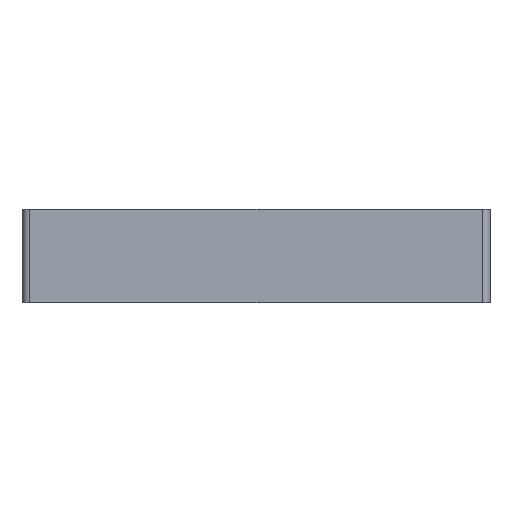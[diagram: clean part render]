
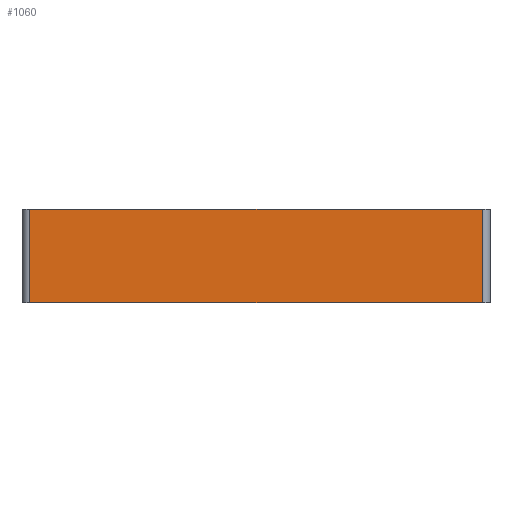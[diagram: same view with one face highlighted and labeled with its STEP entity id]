
A CAD part, front view. The second image highlights one B-rep face of the part: STEP entity #1060.
In plain terms, the highlighted planar face has unit normal (0, -1, 0).
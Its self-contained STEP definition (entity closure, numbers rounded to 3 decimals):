
#17 = CARTESIAN_POINT ( 'NONE',  ( -29., -30., 12. ) ) ;
#24 = CARTESIAN_POINT ( 'NONE',  ( -29., -30., 0. ) ) ;
#68 = CARTESIAN_POINT ( 'NONE',  ( 29., -30., 12. ) ) ;
#75 = DIRECTION ( 'NONE',  ( 0., 0., -1. ) ) ;
#121 = ORIENTED_EDGE ( 'NONE', *, *, #485, .T. ) ;
#150 = ORIENTED_EDGE ( 'NONE', *, *, #469, .F. ) ;
#177 = ORIENTED_EDGE ( 'NONE', *, *, #476, .T. ) ;
#193 = ORIENTED_EDGE ( 'NONE', *, *, #482, .F. ) ;
#279 = VECTOR ( 'NONE', #568, 1000. ) ;
#281 = LINE ( 'NONE', #567, #279 ) ;
#283 = LINE ( 'NONE', #551, #289 ) ;
#288 = LINE ( 'NONE', #538, #295 ) ;
#289 = VECTOR ( 'NONE', #536, 1000. ) ;
#295 = VECTOR ( 'NONE', #574, 1000. ) ;
#300 = LINE ( 'NONE', #68, #306 ) ;
#306 = VECTOR ( 'NONE', #75, 1000. ) ;
#414 = AXIS2_PLACEMENT_3D ( 'NONE', #813, #771, #825 ) ;
#469 = EDGE_CURVE ( 'NONE', #710, #719, #300, .T. ) ;
#476 = EDGE_CURVE ( 'NONE', #652, #639, #281, .T. ) ;
#482 = EDGE_CURVE ( 'NONE', #652, #710, #283, .T. ) ;
#485 = EDGE_CURVE ( 'NONE', #639, #719, #288, .T. ) ;
#536 = DIRECTION ( 'NONE',  ( 1., 0., 0. ) ) ;
#538 = CARTESIAN_POINT ( 'NONE',  ( -29., -30., 0. ) ) ;
#551 = CARTESIAN_POINT ( 'NONE',  ( -29., -30., 12. ) ) ;
#567 = CARTESIAN_POINT ( 'NONE',  ( -29., -30., 12. ) ) ;
#568 = DIRECTION ( 'NONE',  ( 0., 0., -1. ) ) ;
#574 = DIRECTION ( 'NONE',  ( 1., 0., 0. ) ) ;
#639 = VERTEX_POINT ( 'NONE', #24 ) ;
#652 = VERTEX_POINT ( 'NONE', #17 ) ;
#655 = EDGE_LOOP ( 'NONE', ( #121, #150, #193, #177 ) ) ;
#710 = VERTEX_POINT ( 'NONE', #960 ) ;
#719 = VERTEX_POINT ( 'NONE', #958 ) ;
#740 = PLANE ( 'NONE',  #414 ) ;
#771 = DIRECTION ( 'NONE',  ( 0., 1., 0. ) ) ;
#813 = CARTESIAN_POINT ( 'NONE',  ( -29., -30., 12. ) ) ;
#825 = DIRECTION ( 'NONE',  ( -1., 0., 0. ) ) ;
#882 = FACE_OUTER_BOUND ( 'NONE', #655, .T. ) ;
#958 = CARTESIAN_POINT ( 'NONE',  ( 29., -30., 0. ) ) ;
#960 = CARTESIAN_POINT ( 'NONE',  ( 29., -30., 12. ) ) ;
#1060 = ADVANCED_FACE ( 'NONE', ( #882 ), #740, .F. ) ;
